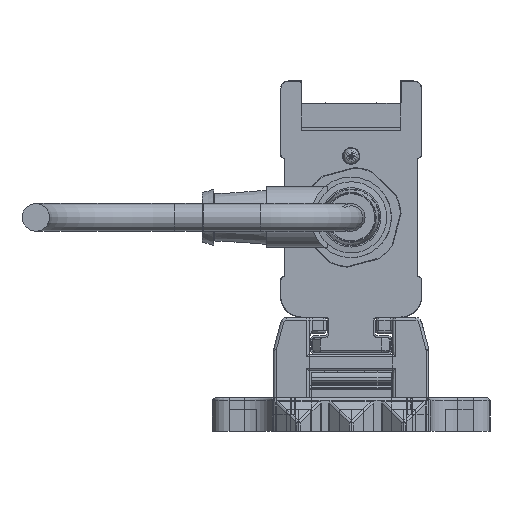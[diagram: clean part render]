
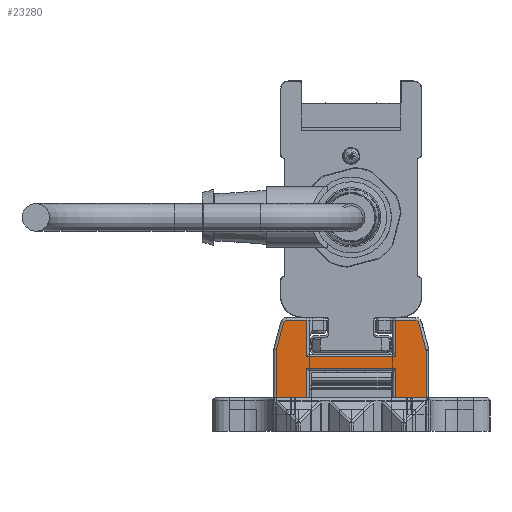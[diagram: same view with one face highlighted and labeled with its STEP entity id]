
A CAD part, left-side view. The second image highlights one B-rep face of the part: STEP entity #23280.
In plain terms, the highlighted planar face has unit normal (-1, 0, 0).
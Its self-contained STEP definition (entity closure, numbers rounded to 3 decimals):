
#23280=ADVANCED_FACE('', (#23290), #23300, .T.);
#141290=AXIS2_PLACEMENT_3D('Ax2Pl3d', #141300, #141310, #141320);
#141530=AXIS2_PLACEMENT_3D('Ax2Pl3d', #141540, #141550, #141560);
#146410=AXIS2_PLACEMENT_3D('Ax2Pl3d', #146420, #146430, #146440);
#151490=AXIS2_PLACEMENT_3D('Ax2Pl3d', #151500, #151510, #151520);
#161170=AXIS2_PLACEMENT_3D('Ax2Pl3d', #161180, #161190, #161200);
#583560=CARTESIAN_POINT('', (-747.669,-3286.345,
331.37));
#141300=CARTESIAN_POINT('HicPkt', (-747.669,-3285.379,
331.111));
#583570=CARTESIAN_POINT('', (-747.669,-3286.379,
331.111));
#583580=CARTESIAN_POINT('', (-747.669,-3285.037,
336.255));
#583600=CARTESIAN_POINT('', (-747.669,-3285.037,
336.255));
#583630=CARTESIAN_POINT('', (-747.669,-3284.554,
336.625));
#141540=CARTESIAN_POINT('HicPkt', (-747.669,-3284.554,
336.125));
#583850=CARTESIAN_POINT('', (-747.669,-3286.379,
322.625));
#583860=CARTESIAN_POINT('', (-747.669,-3280.881,
322.625));
#583870=CARTESIAN_POINT('', (-747.669,-3280.881,
322.625));
#583950=CARTESIAN_POINT('', (-747.669,-3264.881,
322.625));
#583960=CARTESIAN_POINT('', (-747.669,-3259.383,
322.625));
#583970=CARTESIAN_POINT('', (-747.669,-3259.383,
322.625));
#146420=CARTESIAN_POINT('HicPkt', (-747.669,-3261.209,
336.125));
#586440=CARTESIAN_POINT('', (-747.669,-3260.726,
336.255));
#586450=CARTESIAN_POINT('', (-747.669,-3261.209,
336.625));
#586460=CARTESIAN_POINT('', (-747.669,-3280.881,
330.025));
#586470=CARTESIAN_POINT('', (-747.669,-3264.881,
330.025));
#586480=CARTESIAN_POINT('', (-747.669,-3280.881,
330.025));
#586640=CARTESIAN_POINT('', (-747.669,-3280.881,
328.005));
#586650=CARTESIAN_POINT('', (-747.669,-3264.881,328.005)
);
#586660=CARTESIAN_POINT('', (-747.669,-3264.881,328.005)
);
#586670=CARTESIAN_POINT('', (-747.669,-3280.881,
328.005));
#586690=CARTESIAN_POINT('', (-747.669,-3264.881,
322.625));
#586700=CARTESIAN_POINT('', (-747.669,-3264.881,
330.025));
#586710=CARTESIAN_POINT('', (-747.669,-3264.881,
336.625));
#587560=CARTESIAN_POINT('', (-747.669,-3264.881,
336.625));
#587570=CARTESIAN_POINT('', (-747.669,-3260.726,
336.255));
#587580=CARTESIAN_POINT('', (-747.669,-3259.417,
331.37));
#587770=CARTESIAN_POINT('', (-747.669,-3259.383,
331.111));
#587780=CARTESIAN_POINT('', (-747.669,-3259.383,
331.111));
#151500=CARTESIAN_POINT('HicPkt', (-747.669,-3260.383,
331.111));
#588590=CARTESIAN_POINT('', (-747.669,-3286.379,
331.111));
#161180=CARTESIAN_POINT('HicPkt', (-747.669,-3284.554,
336.625));
#590390=CARTESIAN_POINT('', (-747.669,-3280.881,
336.625));
#590400=CARTESIAN_POINT('', (-747.669,-3280.881,
336.625));
#590410=CARTESIAN_POINT('', (-747.669,-3280.881,
336.625));
#675070=CIRCLE('Circle', #141290, 1.);
#675110=CIRCLE('Circle', #141530, 0.5);
#675690=CIRCLE('Circle', #146410, 0.5);
#676220=CIRCLE('Circle', #151490, 1.);
#141310=DIRECTION('Axis', (-1.,0.,
0.));
#141320=DIRECTION('RefDirection', (0.,
0.,-1.));
#942570=DIRECTION('', (0.,0.259,
0.966));
#141550=DIRECTION('Axis', (-1.,0.,
0.));
#141560=DIRECTION('RefDirection', (0.,
0.,-1.));
#942680=DIRECTION('', (0.,1.,0.));
#942720=DIRECTION('', (0.,1.,0.));
#146430=DIRECTION('Axis', (1.,0.,
0.));
#146440=DIRECTION('RefDirection', (0.,
0.,-1.));
#943910=DIRECTION('', (0.,-1.,0.));
#944010=DIRECTION('', (0.,1.,0.));
#944020=DIRECTION('', (0.,0.,1.));
#944040=DIRECTION('', (0.,0.,-1.));
#944050=DIRECTION('', (0.,0.,-1.));
#944480=DIRECTION('', (0.,-1.,0.));
#944490=DIRECTION('', (0.,-0.259,0.966));
#944580=DIRECTION('', (0.,0.,1.));
#151510=DIRECTION('Axis', (1.,0.,
0.));
#151520=DIRECTION('RefDirection', (0.,
0.,-1.));
#944950=DIRECTION('', (0.,0.,1.));
#161190=DIRECTION('Axis', (-1.,0.,
0.));
#161200=DIRECTION('RefDirection', (0.,
0.,-1.));
#945790=DIRECTION('', (0.,1.,0.));
#945800=DIRECTION('', (0.,0.,1.));
#1009400=EDGE_CURVE('', #1009410, #1009390, #675070, .T.);
#1009460=EDGE_CURVE('', #1009390, #1009440, #1009470, .T.);
#1009530=EDGE_CURVE('', #1009440, #1009520, #675110, .T.);
#1009980=EDGE_CURVE('', #1009970, #1009990, #1010000, .T.);
#1010140=EDGE_CURVE('', #1010130, #1010150, #1010160, .T.);
#1014500=EDGE_CURVE('', #1014510, #1014520, #675690, .T.);
#1014550=EDGE_CURVE('', #1014560, #1014570, #1014580, .T.);
#1014920=EDGE_CURVE('', #1014900, #1014930, #1014940, .T.);
#1014970=EDGE_CURVE('', #1009990, #1014900, #1014980, .T.);
#1015010=EDGE_CURVE('', #1014930, #1010130, #1015020, .T.);
#1015030=EDGE_CURVE('', #1015040, #1014560, #1015050, .T.);
#1016870=EDGE_CURVE('', #1014520, #1015040, #1016880, .T.);
#1016940=EDGE_CURVE('', #1016950, #1014510, #1016960, .T.);
#1017380=EDGE_CURVE('', #1010150, #1017390, #1017400, .T.);
#1017420=EDGE_CURVE('', #1017390, #1016950, #676220, .T.);
#1019130=EDGE_CURVE('', #1009970, #1009410, #1019140, .T.);
#1022940=EDGE_CURVE('', #1009520, #1022950, #1022960, .T.);
#1022970=EDGE_CURVE('', #1014570, #1022950, #1022980, .T.);
#1216860=EDGE_LOOP('Edge_loop', (#1216870,#1216880,#1216890,#1216900,
#1216910,#1216920,#1216930,#1216940,#1216950,#1216960,#1216970,
#1216980,#1216990,#1217000,#1217010,#1217020,#1217030,#1217040));
#23290=FACE_OUTER_BOUND('Face_outer_bound', #1216860, .T.);
#1009470=LINE('Line', #583600, #1391440);
#1010000=LINE('Line', #583860, #1391550);
#1010160=LINE('Line', #583960, #1391590);
#1014580=LINE('Line', #586460, #1392780);
#1014940=LINE('Line', #586650, #1392880);
#1014980=LINE('Line', #586670, #1392890);
#1015020=LINE('Line', #586690, #1392910);
#1015050=LINE('Line', #586700, #1392920);
#1016880=LINE('Line', #587560, #1393350);
#1016960=LINE('Line', #587570, #1393360);
#1017400=LINE('Line', #587770, #1393450);
#1019140=LINE('Line', #588590, #1393820);
#1022960=LINE('Line', #590390, #1394660);
#1022980=LINE('Line', #590410, #1394670);
#1216870=ORIENTED_EDGE('', *, *, #1022940, .T.);
#1216880=ORIENTED_EDGE('', *, *, #1022970, .F.);
#1216890=ORIENTED_EDGE('', *, *, #1014550, .F.);
#1216900=ORIENTED_EDGE('', *, *, #1015030, .F.);
#1216910=ORIENTED_EDGE('', *, *, #1016870, .F.);
#1216920=ORIENTED_EDGE('', *, *, #1014500, .F.);
#1216930=ORIENTED_EDGE('', *, *, #1016940, .F.);
#1216940=ORIENTED_EDGE('', *, *, #1017420, .F.);
#1216950=ORIENTED_EDGE('', *, *, #1017380, .F.);
#1216960=ORIENTED_EDGE('', *, *, #1010140, .F.);
#1216970=ORIENTED_EDGE('', *, *, #1015010, .F.);
#1216980=ORIENTED_EDGE('', *, *, #1014920, .F.);
#1216990=ORIENTED_EDGE('', *, *, #1014970, .F.);
#1217000=ORIENTED_EDGE('', *, *, #1009980, .F.);
#1217010=ORIENTED_EDGE('', *, *, #1019130, .T.);
#1217020=ORIENTED_EDGE('', *, *, #1009400, .T.);
#1217030=ORIENTED_EDGE('', *, *, #1009460, .T.);
#1217040=ORIENTED_EDGE('', *, *, #1009530, .T.);
#23300=PLANE('Plane', #161170);
#1391440=VECTOR('', #942570, 5.057);
#1391550=VECTOR('', #942680, 5.498);
#1391590=VECTOR('', #942720, 5.498);
#1392780=VECTOR('', #943910, 16.);
#1392880=VECTOR('', #944010, 16.);
#1392890=VECTOR('', #944020, 5.38);
#1392910=VECTOR('', #944040, 5.38);
#1392920=VECTOR('', #944050, 6.6);
#1393350=VECTOR('', #944480, 3.672);
#1393360=VECTOR('', #944490, 5.057);
#1393450=VECTOR('', #944580, 8.486);
#1393820=VECTOR('', #944950, 8.486);
#1394660=VECTOR('', #945790, 3.672);
#1394670=VECTOR('', #945800, 6.6);
#1009390=VERTEX_POINT('', #583560);
#1009410=VERTEX_POINT('', #583570);
#1009440=VERTEX_POINT('', #583580);
#1009520=VERTEX_POINT('', #583630);
#1009970=VERTEX_POINT('', #583850);
#1009990=VERTEX_POINT('', #583870);
#1010130=VERTEX_POINT('', #583950);
#1010150=VERTEX_POINT('', #583970);
#1014510=VERTEX_POINT('', #586440);
#1014520=VERTEX_POINT('', #586450);
#1014560=VERTEX_POINT('', #586470);
#1014570=VERTEX_POINT('', #586480);
#1014900=VERTEX_POINT('', #586640);
#1014930=VERTEX_POINT('', #586660);
#1015040=VERTEX_POINT('', #586710);
#1016950=VERTEX_POINT('', #587580);
#1017390=VERTEX_POINT('', #587780);
#1022950=VERTEX_POINT('', #590400);
